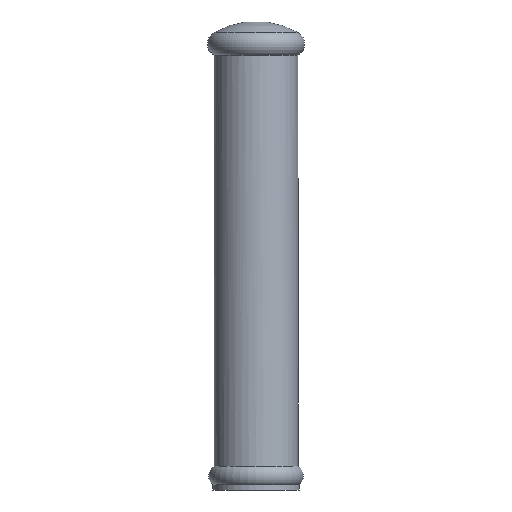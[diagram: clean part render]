
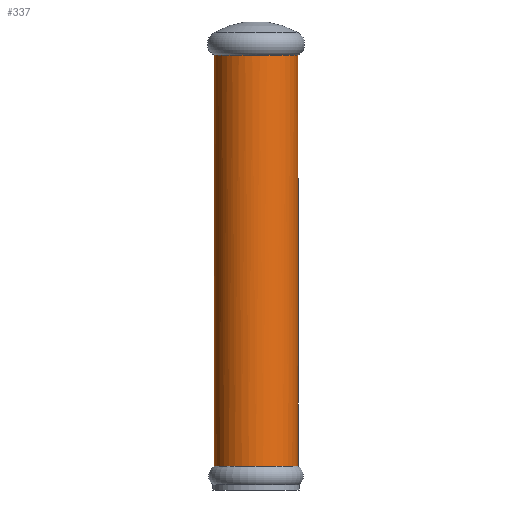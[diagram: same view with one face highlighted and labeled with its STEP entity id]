
A CAD part, left-side view. The second image highlights one B-rep face of the part: STEP entity #337.
In plain terms, the highlighted cylindrical face has radius 16 mm (diameter 32 mm), a full revolution.
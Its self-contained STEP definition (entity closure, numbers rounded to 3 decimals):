
#103=CARTESIAN_POINT('',(16.,0.,-156.404));
#104=VERTEX_POINT('',#103);
#112=CARTESIAN_POINT('',(0.,0.,-156.404));
#113=DIRECTION('',(1.,0.,0.));
#114=DIRECTION('',(0.,0.,1.));
#115=AXIS2_PLACEMENT_3D('',#112,#114,#113);
#116=CIRCLE('',#115,16.);
#117=EDGE_CURVE('',#104,#104,#116,.T.);
#150=CARTESIAN_POINT('',(15.222,-4.93,0.053));
#151=VERTEX_POINT('',#150);
#168=CARTESIAN_POINT('',(15.221,4.93,0.053));
#169=VERTEX_POINT('',#168);
#170=CARTESIAN_POINT('',(0.,0.,0.053));
#171=DIRECTION('',(0.951,0.308,0.));
#172=DIRECTION('',(0.,0.,1.));
#173=AXIS2_PLACEMENT_3D('',#170,#172,#171);
#174=CIRCLE('',#173,16.);
#175=EDGE_CURVE('',#169,#151,#174,.T.);
#214=CARTESIAN_POINT('',(0.,0.,-156.404));
#215=DIRECTION('',(1.,0.,0.));
#216=DIRECTION('',(0.,0.,1.));
#217=AXIS2_PLACEMENT_3D('',#214,#216,#215);
#218=CYLINDRICAL_SURFACE('',#217,16.);
#219=CARTESIAN_POINT('',(16.,0.,-150.722));
#220=VERTEX_POINT('',#219);
#221=CARTESIAN_POINT('',(16.,0.,-156.404));
#222=DIRECTION('',(0.,0.,1.));
#223=VECTOR('',#222,5.683);
#224=LINE('',#221,#223);
#225=EDGE_CURVE('',#104,#220,#224,.T.);
#226=ORIENTED_EDGE('E7',*,*,#225,.T.);
#227=CARTESIAN_POINT('',(15.492,4.,-151.148));
#228=VERTEX_POINT('',#227);
#229=CARTESIAN_POINT('',(15.492,4.,-151.148));
#230=CARTESIAN_POINT('',(16.,2.032,-150.722));
#231=CARTESIAN_POINT('',(16.,0.,-150.722));
#232=(BOUNDED_CURVE()B_SPLINE_CURVE(2,(#229,#230,#231),.UNSPECIFIED.,.F.,.U.)B_SPLINE_CURVE_WITH_KNOTS((3,3),(0.,1.),.UNSPECIFIED.)CURVE()GEOMETRIC_REPRESENTATION_ITEM()RATIONAL_B_SPLINE_CURVE((0.917,0.95,1.))REPRESENTATION_ITEM(''));
#233=EDGE_CURVE('',#228,#220,#232,.T.);
#234=ORIENTED_EDGE('E66',*,*,#233,.F.);
#235=CARTESIAN_POINT('',(15.492,4.,-140.705));
#236=VERTEX_POINT('',#235);
#237=CARTESIAN_POINT('',(15.492,4.,-140.705));
#238=CARTESIAN_POINT('',(15.467,4.097,-140.726));
#239=CARTESIAN_POINT('',(15.389,4.386,-140.805));
#240=CARTESIAN_POINT('',(15.308,4.659,-140.925));
#241=CARTESIAN_POINT('',(14.737,6.459,-141.904));
#242=CARTESIAN_POINT('',(14.129,7.519,-144.034));
#243=CARTESIAN_POINT('',(13.803,8.097,-147.133));
#244=CARTESIAN_POINT('',(13.83,8.076,-148.548));
#245=CARTESIAN_POINT('',(14.394,7.007,-150.493));
#246=CARTESIAN_POINT('',(14.943,5.873,-151.298));
#247=CARTESIAN_POINT('',(15.373,4.46,-151.248));
#248=CARTESIAN_POINT('',(15.492,4.,-151.148));
#249=B_SPLINE_CURVE_WITH_KNOTS('',3,(#237,#238,#239,#240,#241,#242,#243,#244,#245,#246,#247,#248),.UNSPECIFIED.,.F.,.U.,(4,1,2,2,2,1,4),(0.,0.071,0.213,1.538,2.429,3.096,3.429),.UNSPECIFIED.);
#250=EDGE_CURVE('',#236,#228,#249,.T.);
#251=ORIENTED_EDGE('E63',*,*,#250,.F.);
#252=CARTESIAN_POINT('',(16.,0.,-140.278));
#253=VERTEX_POINT('',#252);
#254=CARTESIAN_POINT('',(15.492,4.,-140.705));
#255=CARTESIAN_POINT('',(16.,2.032,-140.278));
#256=CARTESIAN_POINT('',(16.,0.,-140.278));
#257=(BOUNDED_CURVE()B_SPLINE_CURVE(2,(#254,#255,#256),.UNSPECIFIED.,.F.,.U.)B_SPLINE_CURVE_WITH_KNOTS((3,3),(0.,1.),.UNSPECIFIED.)CURVE()GEOMETRIC_REPRESENTATION_ITEM()RATIONAL_B_SPLINE_CURVE((0.917,0.95,1.))REPRESENTATION_ITEM(''));
#258=EDGE_CURVE('',#236,#253,#257,.T.);
#259=ORIENTED_EDGE('E64',*,*,#258,.T.);
#260=CARTESIAN_POINT('',(16.,0.,-0.347));
#261=VERTEX_POINT('',#260);
#262=CARTESIAN_POINT('',(16.,0.,-140.278));
#263=DIRECTION('',(0.,0.,1.));
#264=VECTOR('',#263,139.931);
#265=LINE('',#262,#264);
#266=EDGE_CURVE('',#253,#261,#265,.T.);
#267=ORIENTED_EDGE('E73',*,*,#266,.T.);
#268=CARTESIAN_POINT('',(15.492,4.,-0.163));
#269=VERTEX_POINT('',#268);
#270=CARTESIAN_POINT('',(0.,0.,5.476));
#271=DIRECTION('',(0.94,0.,-0.342));
#272=DIRECTION('',(0.342,0.,0.94));
#273=AXIS2_PLACEMENT_3D('',#270,#272,#271);
#274=ELLIPSE('',#273,17.027,16.);
#275=TRIMMED_CURVE('',#274,(PARAMETER_VALUE(0.)),(PARAMETER_VALUE(0.253)),.T.,.PARAMETER.);
#276=EDGE_CURVE('',#261,#269,#275,.T.);
#277=ORIENTED_EDGE('E76',*,*,#276,.T.);
#278=CARTESIAN_POINT('',(15.492,4.,-0.163));
#279=CARTESIAN_POINT('',(15.367,4.481,-0.116));
#280=CARTESIAN_POINT('',(15.222,4.93,0.053));
#281=B_SPLINE_CURVE_WITH_KNOTS('',2,(#278,#279,#280),.UNSPECIFIED.,.F.,.U.,(3,3),(0.,1.),.UNSPECIFIED.);
#282=EDGE_CURVE('',#269,#169,#281,.T.);
#283=ORIENTED_EDGE('E75',*,*,#282,.T.);
#284=ORIENTED_EDGE('E75',*,*,#175,.T.);
#285=CARTESIAN_POINT('',(15.492,-4.,-0.163));
#286=VERTEX_POINT('',#285);
#287=CARTESIAN_POINT('',(15.222,-4.93,0.053));
#288=CARTESIAN_POINT('',(15.367,-4.481,-0.116));
#289=CARTESIAN_POINT('',(15.492,-4.,-0.163));
#290=B_SPLINE_CURVE_WITH_KNOTS('',2,(#287,#288,#289),.UNSPECIFIED.,.F.,.U.,(3,3),(0.,1.),.UNSPECIFIED.);
#291=EDGE_CURVE('',#151,#286,#290,.T.);
#292=ORIENTED_EDGE('E78',*,*,#291,.T.);
#293=CARTESIAN_POINT('',(0.,0.,5.476));
#294=DIRECTION('',(0.94,0.,-0.342));
#295=DIRECTION('',(0.342,0.,0.94));
#296=AXIS2_PLACEMENT_3D('',#293,#295,#294);
#297=ELLIPSE('',#296,17.027,16.);
#298=TRIMMED_CURVE('',#297,(PARAMETER_VALUE(6.031)),(PARAMETER_VALUE(0.)),.T.,.PARAMETER.);
#299=EDGE_CURVE('',#286,#261,#298,.T.);
#300=ORIENTED_EDGE('E77',*,*,#299,.T.);
#301=ORIENTED_EDGE('E77',*,*,#266,.F.);
#302=CARTESIAN_POINT('',(15.492,-4.,-140.705));
#303=VERTEX_POINT('',#302);
#304=CARTESIAN_POINT('',(16.,0.,-140.278));
#305=CARTESIAN_POINT('',(16.,-2.032,-140.278));
#306=CARTESIAN_POINT('',(15.492,-4.,-140.705));
#307=(BOUNDED_CURVE()B_SPLINE_CURVE(2,(#304,#305,#306),.UNSPECIFIED.,.F.,.U.)B_SPLINE_CURVE_WITH_KNOTS((3,3),(1.,2.),.UNSPECIFIED.)CURVE()GEOMETRIC_REPRESENTATION_ITEM()RATIONAL_B_SPLINE_CURVE((1.,0.95,0.917))REPRESENTATION_ITEM(''));
#308=EDGE_CURVE('',#253,#303,#307,.T.);
#309=ORIENTED_EDGE('E74',*,*,#308,.T.);
#310=CARTESIAN_POINT('',(15.492,-4.,-151.148));
#311=VERTEX_POINT('',#310);
#312=CARTESIAN_POINT('',(15.492,-4.,-151.148));
#313=CARTESIAN_POINT('',(15.474,-4.068,-151.163));
#314=CARTESIAN_POINT('',(15.42,-4.273,-151.201));
#315=CARTESIAN_POINT('',(15.361,-4.48,-151.224));
#316=CARTESIAN_POINT('',(14.891,-6.039,-151.3));
#317=CARTESIAN_POINT('',(14.313,-7.176,-150.535));
#318=CARTESIAN_POINT('',(13.771,-8.163,-147.909));
#319=CARTESIAN_POINT('',(13.837,-8.044,-146.403));
#320=CARTESIAN_POINT('',(14.221,-7.343,-143.898));
#321=CARTESIAN_POINT('',(14.766,-6.343,-141.889));
#322=CARTESIAN_POINT('',(15.33,-4.626,-140.84));
#323=CARTESIAN_POINT('',(15.492,-4.,-140.705));
#324=B_SPLINE_CURVE_WITH_KNOTS('',3,(#312,#313,#314,#315,#316,#317,#318,#319,#320,#321,#322,#323),.UNSPECIFIED.,.F.,.U.,(4,1,2,2,2,1,4),(0.,0.036,0.108,0.853,1.538,2.205,2.538),.UNSPECIFIED.);
#325=EDGE_CURVE('',#311,#303,#324,.T.);
#326=ORIENTED_EDGE('E65',*,*,#325,.F.);
#327=CARTESIAN_POINT('',(16.,0.,-150.722));
#328=CARTESIAN_POINT('',(16.,-2.032,-150.722));
#329=CARTESIAN_POINT('',(15.492,-4.,-151.148));
#330=(BOUNDED_CURVE()B_SPLINE_CURVE(2,(#327,#328,#329),.UNSPECIFIED.,.F.,.U.)B_SPLINE_CURVE_WITH_KNOTS((3,3),(1.,2.),.UNSPECIFIED.)CURVE()GEOMETRIC_REPRESENTATION_ITEM()RATIONAL_B_SPLINE_CURVE((1.,0.95,0.917))REPRESENTATION_ITEM(''));
#331=EDGE_CURVE('',#220,#311,#330,.T.);
#332=ORIENTED_EDGE('E72',*,*,#331,.F.);
#333=ORIENTED_EDGE('E72',*,*,#225,.F.);
#334=ORIENTED_EDGE('E72',*,*,#117,.F.);
#335=EDGE_LOOP('',(#226,#234,#251,#259,#267,#277,#283,#284,#292,#300,#301,#309,#326,#332,#333,#334));
#336=FACE_OUTER_BOUND('',#335,.F.);
#337=ADVANCED_FACE('F8',(#336),#218,.T.);
